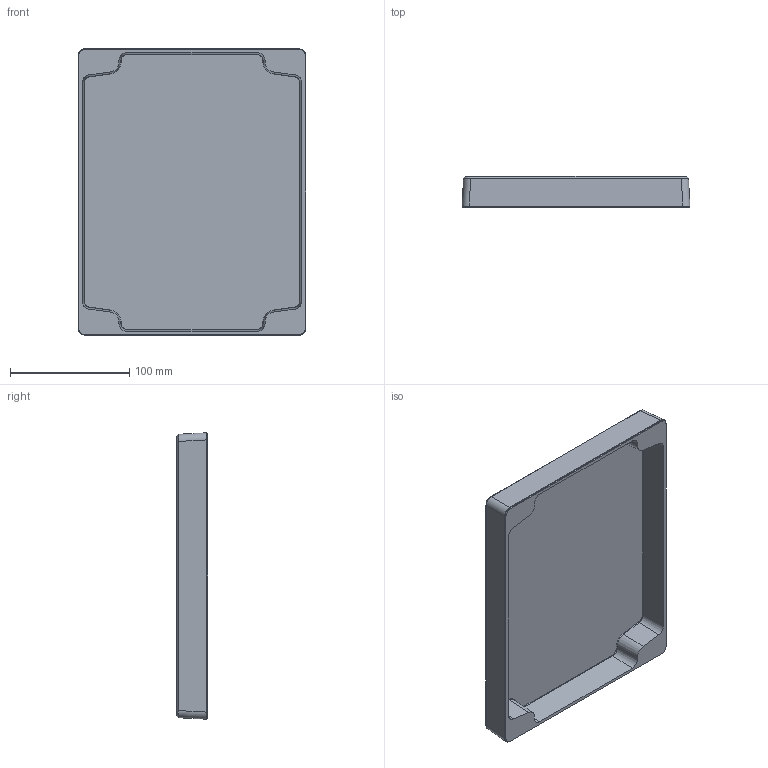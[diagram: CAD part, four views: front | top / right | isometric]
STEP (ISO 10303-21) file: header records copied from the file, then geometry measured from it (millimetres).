
FILE_DESCRIPTION (( 'STEP AP214' ), '1' );
FILE_NAME ('FIBOX TEMPO 2419 Cover.STEP', '2006-11-28T14:21:17', ( 'JuhaniH' ), ( 'Fibox Oy' ), 'SwSTEP 2.0', 'SolidWorks 2006233', '' );
FILE_SCHEMA (( 'AUTOMOTIVE_DESIGN' ));
Length unit declared in the file: millimetre
Products named in the file (1): FIBOX TEMPO 2419 Cover
Bounding box: 190.9 x 26 x 239.9 mm (x, y, z)
Volume: 223186.2 mm3; surface area: 130602.7 mm2
Topology: 1 solids, 1 shells, 112 faces, 256 edges, 152 vertices
Faces by surface type: plane 32, cylinder 24, torus 20, cone 20, bspline 16
Entity records: 4151 total; most frequent: CARTESIAN_POINT 1709, ORIENTED_EDGE 512, DIRECTION 490, EDGE_CURVE 256, AXIS2_PLACEMENT_3D 189, VERTEX_POINT 152, EDGE_LOOP 118, FACE_OUTER_BOUND 112
